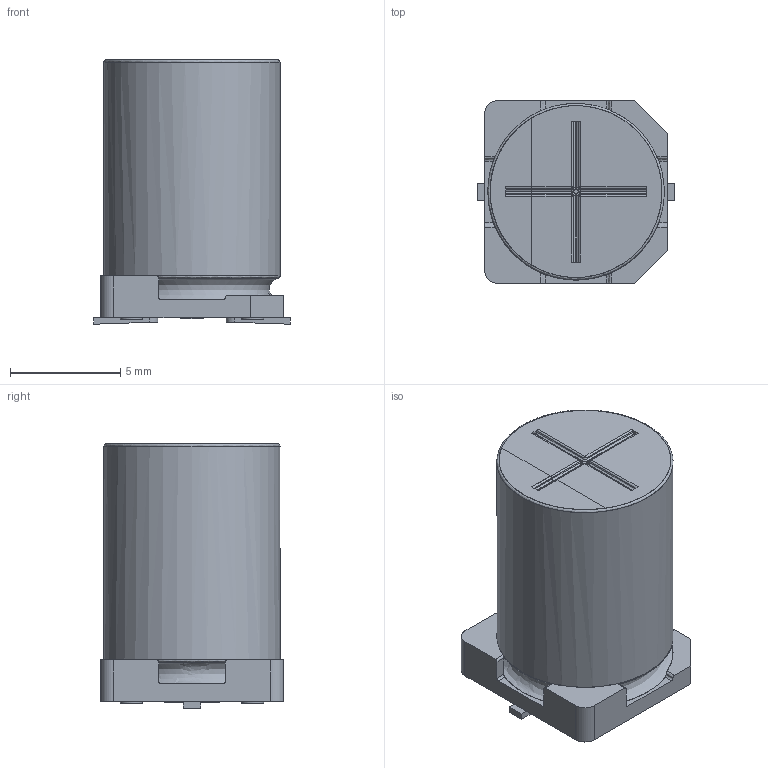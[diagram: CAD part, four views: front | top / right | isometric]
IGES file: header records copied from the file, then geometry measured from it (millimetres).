
Start section: JAMA-IS VERSION  1.0
Bounding box: 8.9 x 8.3 x 12 mm (x, y, z)
Surface area: 599.6 mm2 (no closed solid volume)
Topology: 0 solids, 0 shells, 132 faces, 1288 edges, 1270 vertices
Faces by surface type: bspline 132
